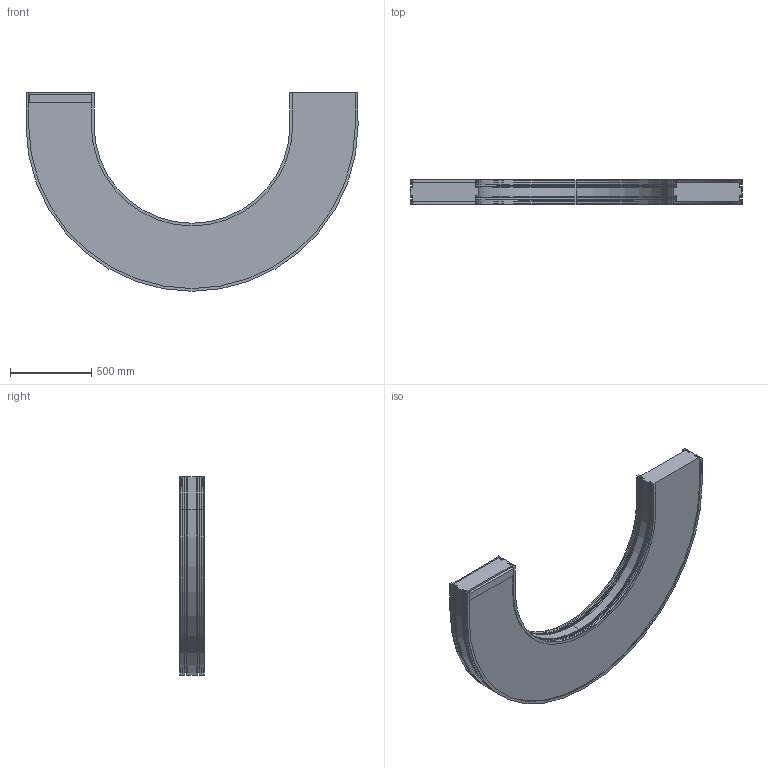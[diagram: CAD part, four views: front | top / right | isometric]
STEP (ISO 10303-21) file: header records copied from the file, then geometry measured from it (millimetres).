
FILE_DESCRIPTION (( 'STEP AP203' ), '1' );
FILE_NAME ('F2-1500-C180.STEP', '2009-02-16T12:23:17', ( 'faber' ), ( '' ), 'SwSTEP 2.0', 'SolidWorks 2008', '' );
FILE_SCHEMA (( 'CONFIG_CONTROL_DESIGN' ));
Length unit declared in the file: millimetre
Products named in the file (3): Tapis_1500; Courbe_   1500; F2-1500-C180
Assembly tree (3 placements, depth 2):
  F2-1500-C180
    Courbe_   1500
    Tapis_1500  x2
Bounding box: 2038 x 152.88 x 1219 mm (x, y, z)
Volume: 139850170.7 mm3; surface area: 5078713.5 mm2
Topology: 3 solids, 3 shells, 232 faces, 678 edges, 452 vertices
Faces by surface type: plane 148, cylinder 84
Entity records: 7743 total; most frequent: CARTESIAN_POINT 1318, ORIENTED_EDGE 1308, DIRECTION 1278, EDGE_CURVE 654, LINE 486, VECTOR 486, VERTEX_POINT 436, AXIS2_PLACEMENT_3D 396
